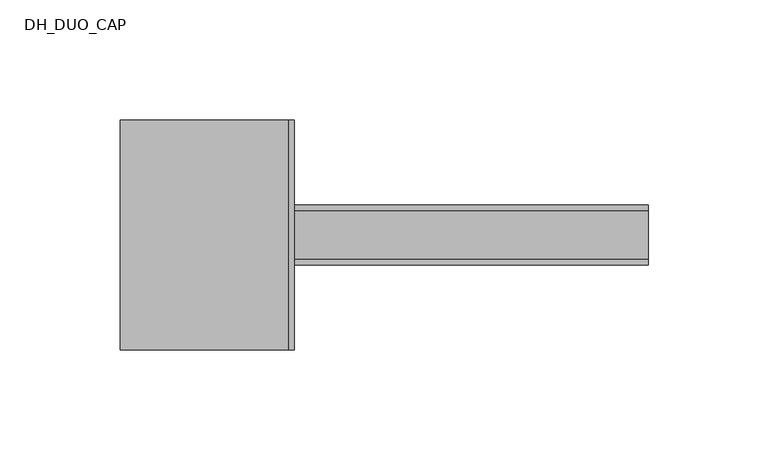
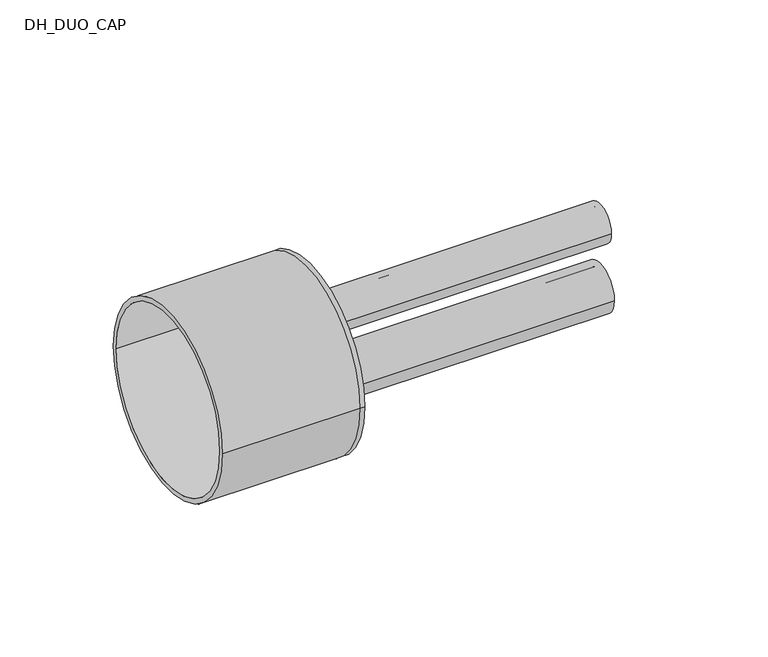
"""IFC4 building model written with IfcOpenShell, lengths in millimetres: pipe fitting geometry, DH_DUO_CAP : RAUTHERMEX DUO 7.4 DW - Solid Cap."""

from ifc_helpers import new_model, si_unit, point, frame, frame_2d, origin, place, context, project, spatial, polyline, circle_curve, trimmed, segment, composite_curve, outline, extrude, source, transform, mapped, element, save
from ifc_brep_helpers import plane_surface, cylinder_surface, revolved_surface, advanced_brep


def dh_duo_cap_58c174f1(model_context):
    return source(origin(), model_context, "Body", "SolidModel", [
        extrude(outline(composite_curve([segment(trimmed(circle_curve(frame_2d((0.0, -16.0)), 12.5), [point((-12.5, -16.0))], [point((12.5, -16.0))], False, "CARTESIAN"), True, "CONTINUOUS"), segment(trimmed(circle_curve(frame_2d((0.0, -16.0)), 12.5), [point((12.5, -16.0))], [point((-12.5, -16.0))], False, "CARTESIAN"), True, "CONTINUOUS")], self_intersect=False), holes=[composite_curve([segment(trimmed(circle_curve(frame_2d((0.0, -16.0)), 9.0), [point((-9.0, -16.0))], [point((9.0, -16.0))], True, "CARTESIAN"), True, "CONTINUOUS"), segment(trimmed(circle_curve(frame_2d((0.0, -16.0)), 9.0), [point((9.0, -16.0))], [point((-9.0, -16.0))], True, "CARTESIAN"), True, "CONTINUOUS")], self_intersect=False)]), frame((0.0, 0.0, 0.0), z_axis=(1.0, 0.0, 0.0), x_axis=(0.0, 1.0, 0.0)), (0.0, 0.0, 1.0), 150.0),
        extrude(outline(composite_curve([segment(trimmed(circle_curve(frame_2d((0.0, 18.5)), 10.0), [point((-10.0, 18.5))], [point((10.0, 18.5))], False, "CARTESIAN"), True, "CONTINUOUS"), segment(trimmed(circle_curve(frame_2d((0.0, 18.5)), 10.0), [point((10.0, 18.5))], [point((-10.0, 18.5))], False, "CARTESIAN"), True, "CONTINUOUS")], self_intersect=False), holes=[composite_curve([segment(trimmed(circle_curve(frame_2d((0.0, 18.5)), 7.2), [point((-7.2, 18.5))], [point((7.2, 18.5))], True, "CARTESIAN"), True, "CONTINUOUS"), segment(trimmed(circle_curve(frame_2d((0.0, 18.5)), 7.2), [point((7.2, 18.5))], [point((-7.2, 18.5))], True, "CARTESIAN"), True, "CONTINUOUS")], self_intersect=False)]), frame((0.0, 0.0, 0.0), z_axis=(1.0, 0.0, 0.0), x_axis=(0.0, 1.0, 0.0)), (0.0, 0.0, 1.0), 150.0),
        advanced_brep(
        [(-70.0, -48.0, 0.0), (-70.0, 48.0, 0.0), (-70.0, -45.5, 0.0), (-70.0, 45.5, 0.0), (0.0, -45.5, 0.0), (0.0, 45.5, 0.0), (0.0, -48.0, 0.0), (0.0, 48.0, 0.0), (0.0, 10.0, 18.5), (0.0, -10.0, 18.5), (0.0, 12.5, -16.0), (0.0, -12.5, -16.0), (2.5, -48.0, 0.0), (2.5, 48.0, 0.0), (2.5, -10.0, 18.5), (2.5, 10.0, 18.5), (2.5, -12.5, -16.0), (2.5, 12.5, -16.0)],
        [
            (0, 1, circle_curve(frame((-70.0, 0.0, 0.0), z_axis=(-1.0, 0.0, 0.0), x_axis=(0.0, 1.0, 0.0)), 48.0)),
            (1, 0, circle_curve(frame((-70.0, 0.0, 0.0), z_axis=(-1.0, 0.0, 0.0), x_axis=(0.0, 1.0, 0.0)), 48.0)),
            (2, 3, circle_curve(frame((-70.0, 0.0, 0.0), z_axis=(1.0, 0.0, 0.0), x_axis=(0.0, 1.0, 0.0)), 45.5)),
            (3, 2, circle_curve(frame((-70.0, 0.0, 0.0), z_axis=(1.0, 0.0, 0.0), x_axis=(0.0, 1.0, 0.0)), 45.5)),
            (2, 4),
            (4, 5, circle_curve(frame((0.0, 0.0, 0.0), z_axis=(1.0, 0.0, 0.0), x_axis=(0.0, 1.0, 0.0)), 45.5)),
            (5, 3),
            (5, 4, circle_curve(frame((0.0, 0.0, 0.0), z_axis=(1.0, 0.0, 0.0), x_axis=(0.0, 1.0, 0.0)), 45.5)),
            (0, 6),
            (6, 7, circle_curve(frame((0.0, 0.0, 0.0), z_axis=(-1.0, 0.0, 0.0), x_axis=(0.0, 1.0, 0.0)), 48.0)),
            (7, 1),
            (7, 6, circle_curve(frame((0.0, 0.0, 0.0), z_axis=(-1.0, 0.0, 0.0), x_axis=(0.0, 1.0, 0.0)), 48.0)),
            (8, 9, circle_curve(frame((0.0, 0.0, 18.5), z_axis=(1.0, 0.0, 0.0), x_axis=(0.0, 1.0, 0.0)), 10.0)),
            (9, 8, circle_curve(frame((0.0, 0.0, 18.5), z_axis=(1.0, 0.0, 0.0), x_axis=(0.0, 1.0, 0.0)), 10.0)),
            (10, 11, circle_curve(frame((0.0, 0.0, -16.0), z_axis=(1.0, 0.0, 0.0), x_axis=(0.0, 1.0, 0.0)), 12.5)),
            (11, 10, circle_curve(frame((0.0, 0.0, -16.0), z_axis=(1.0, 0.0, 0.0), x_axis=(0.0, 1.0, 0.0)), 12.5)),
            (12, 13, circle_curve(frame((2.5, 0.0, 0.0), z_axis=(1.0, 0.0, 0.0), x_axis=(0.0, 1.0, 0.0)), 48.0)),
            (13, 12, circle_curve(frame((2.5, 0.0, 0.0), z_axis=(1.0, 0.0, 0.0), x_axis=(0.0, 1.0, 0.0)), 48.0)),
            (14, 15, circle_curve(frame((2.5, 0.0, 18.5), z_axis=(-1.0, 0.0, 0.0), x_axis=(0.0, 1.0, 0.0)), 10.0)),
            (15, 14, circle_curve(frame((2.5, 0.0, 18.5), z_axis=(-1.0, 0.0, 0.0), x_axis=(0.0, 1.0, 0.0)), 10.0)),
            (16, 17, circle_curve(frame((2.5, 0.0, -16.0), z_axis=(-1.0, 0.0, 0.0), x_axis=(0.0, 1.0, 0.0)), 12.5)),
            (17, 16, circle_curve(frame((2.5, 0.0, -16.0), z_axis=(-1.0, 0.0, 0.0), x_axis=(0.0, 1.0, 0.0)), 12.5)),
            (13, 7),
            (6, 12),
            (8, 15),
            (14, 9),
            (10, 17),
            (16, 11),
        ],
        [
            plane_surface(frame((-70.0, 0.0, 0.0), z_axis=(-1.0, 0.0, 0.0), x_axis=(0.0, 0.0, 1.0))),
            revolved_surface(polyline([(0.0, 45.5, 0.0), (-70.0, 45.5, 0.0)]), (-70.0, 0.0, 0.0), (1.0, 0.0, 0.0)),
            cylinder_surface(frame((-70.0, 0.0, 0.0), z_axis=(-1.0, 0.0, 0.0), x_axis=(0.0, 1.0, 0.0)), 48.0),
            plane_surface(frame((0.0, 0.0, 0.0), z_axis=(-1.0, 0.0, 0.0), x_axis=(0.0, 0.0, 1.0))),
            plane_surface(frame((2.5, 0.0, 0.0), z_axis=(1.0, 0.0, 0.0), x_axis=(0.0, 0.0, 1.0))),
            cylinder_surface(frame((0.0, 0.0, 0.0), z_axis=(-1.0, 0.0, 0.0), x_axis=(0.0, 1.0, 0.0)), 48.0),
            revolved_surface(polyline([(0.0, 10.0, 18.5), (2.5, 10.0, 18.5)]), (0.0, 0.0, 18.5), (-1.0, 0.0, 0.0)),
            revolved_surface(polyline([(0.0, 12.5, -16.0), (2.5, 12.5, -16.0)]), (0.0, 0.0, -16.0), (-1.0, 0.0, 0.0)),
        ],
        [
            (0, [[1, 2], [3, 4]]),
            (1, [[-3, 5, 6, 7]]),
            (1, [[-4, -7, 8, -5]]),
            (2, [[-1, 9, 10, 11]]),
            (2, [[-2, -11, 12, -9]]),
            (3, [[-6, -8], [13, 14], [15, 16]]),
            (4, [[17, 18], [19, 20], [21, 22]]),
            (5, [[-18, 23, -10, 24]]),
            (5, [[-17, -24, -12, -23]]),
            (6, [[25, -19, 26, -13]]),
            (6, [[-25, -14, -26, -20]]),
            (7, [[27, -21, 28, -15]]),
            (7, [[-27, -16, -28, -22]]),
        ],
    ),
    ])


if __name__ == "__main__":
    model = new_model("IFC4")
    model_context = context("Model", 3, world=origin())
    ifc_project = project(units=[si_unit("LENGTHUNIT", "METRE", prefix="MILLI")], contexts=[model_context])
    site = spatial("IfcSite", under=ifc_project)
    building = spatial("IfcBuilding", under=site)
    placement = place(None, origin())
    dh_duo_cap_shape = dh_duo_cap_58c174f1(model_context)
    element("IfcPipeFitting", 1, ObjectType="DH_DUO_CAP : RAUTHERMEX DUO 7.4 DW - Solid Cap", at=placement, inside=building, context=model_context, shape_type="MappedRepresentation", body=[
        mapped(dh_duo_cap_shape, transform((0.0, 0.0, 0.0), x_axis=(1.0, 0.0, 0.0), y_axis=(0.0, 1.0, 0.0), z_axis=(0.0, 0.0, 1.0))),
    ])
    save(model, "model.ifc")
